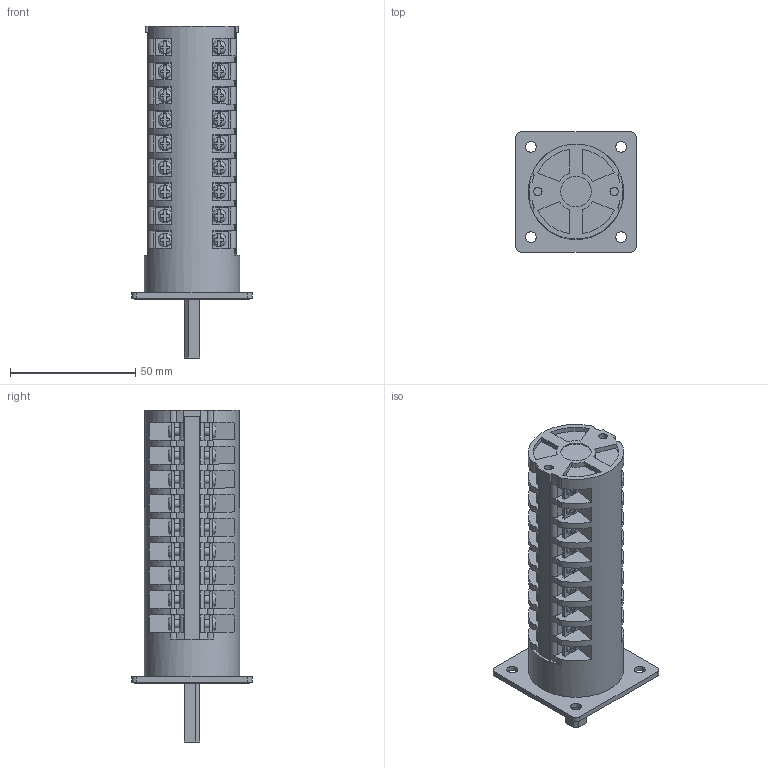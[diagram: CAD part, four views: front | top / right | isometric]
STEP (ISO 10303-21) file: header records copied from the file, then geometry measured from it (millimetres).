
FILE_DESCRIPTION(/* description */ (''),/* implementation_level */ '2;1');
FILE_NAME(/* name */ '4G10-U_standard_9_korpusow.stp',/* time_stamp */ '2021-07-21T07:57:42+02:00',/* author */ (''),/* organization */ (''),/* preprocessor_version */ 'ST-DEVELOPER v18.1',/* originating_system */ 'SIEMENS PLM Software NX 1965',/* authorisation */ '');
FILE_SCHEMA (('AUTOMOTIVE_DESIGN { 1 0 10303 214 3 1 1 1 }'));
Length unit declared in the file: millimetre
Products named in the file (1): 4G10-U_standard_9_korpusow_stp
Bounding box: 48 x 48 x 132.5 mm (x, y, z)
Volume: 102574.8 mm3; surface area: 34537.4 mm2
Topology: 1 solids, 1 shells, 1201 faces, 3318 edges, 2216 vertices
Faces by surface type: plane 990, cylinder 173, bspline 36, torus 2
Full cylindrical faces by diameter (mm): 3.2 x36, 3.4 x3, 4.3 x4, 6.2 x2, 7.2 x4, 12.3 x1, 16.2 x1, 16.8 x1, 38 x1
Entity records: 38287 total; most frequent: CARTESIAN_POINT 8549, ORIENTED_EDGE 6294, DIRECTION 5869, EDGE_CURVE 3147, VERTEX_POINT 2136, LINE 2029, VECTOR 2029, AXIS2_PLACEMENT_3D 1920
